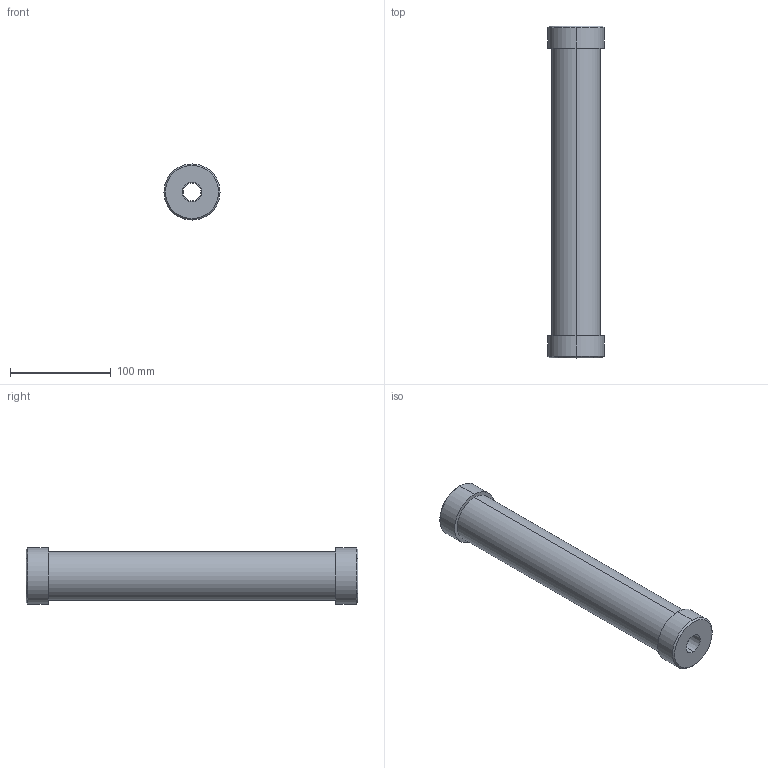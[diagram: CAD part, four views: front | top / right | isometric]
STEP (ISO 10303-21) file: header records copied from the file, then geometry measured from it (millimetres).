
FILE_DESCRIPTION (( 'STEP AP203' ), '1' );
FILE_NAME ('CC0300_P_NPT.STEP', '2016-03-21T09:24:16', ( '' ), ( '' ), 'SwSTEP 2.0', 'SolidWorks 2014', '' );
FILE_SCHEMA (( 'CONFIG_CONTROL_DESIGN' ));
Length unit declared in the file: inch
Products named in the file (2): CC0300_P_NPT
Bounding box: 55.88 x 330.2 x 55.88 mm (x, y, z)
Volume: 247901 mm3; surface area: 97619 mm2
Topology: 1 solids, 1 shells, 28 faces, 56 edges, 36 vertices
Faces by surface type: cylinder 12, cone 8, plane 8
Entity records: 905 total; most frequent: DIRECTION 152, CARTESIAN_POINT 122, ORIENTED_EDGE 112, AXIS2_PLACEMENT_3D 66, EDGE_CURVE 56, CIRCLE 36, VERTEX_POINT 36, EDGE_LOOP 36
